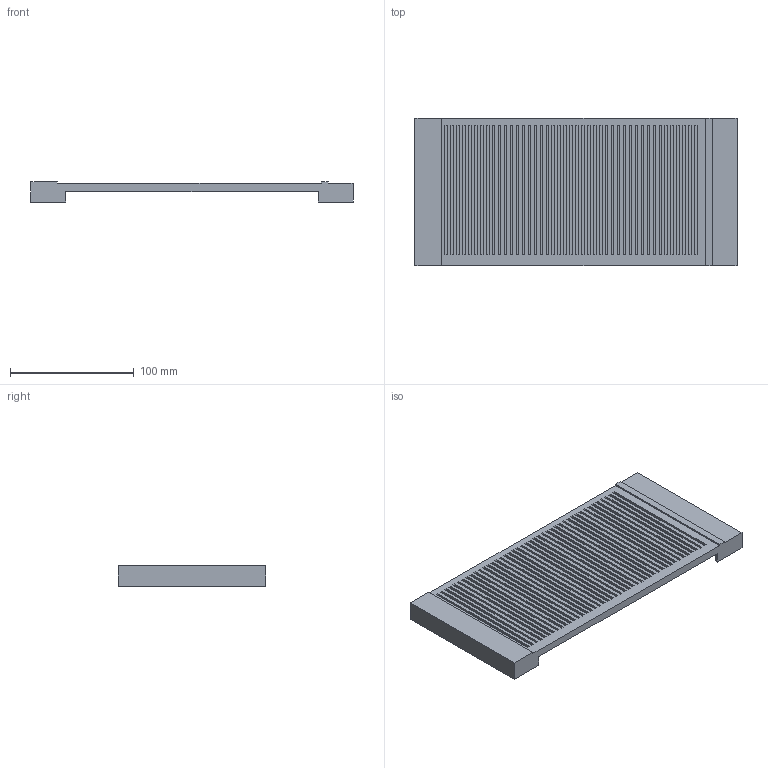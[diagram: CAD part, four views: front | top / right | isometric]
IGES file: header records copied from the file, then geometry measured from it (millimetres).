
Start section:  PTC IGES file: j4-22k-tecover.igs
Global section: file name: j4-22k-tecover.igs; native system: Pro/ENGINEER by Parametric Technology Corporation; preprocessor: 2010160; author: JE18792; organization: Unknown; date: 20121101.154059; units: millimetre
Bounding box: 260 x 119 x 16.2 mm (x, y, z)
Volume: 78756.3 mm3; surface area: 87137.1 mm2
Topology: 1 solids, 1 shells, 235 faces, 570 edges, 380 vertices
Faces by surface type: bspline 235
